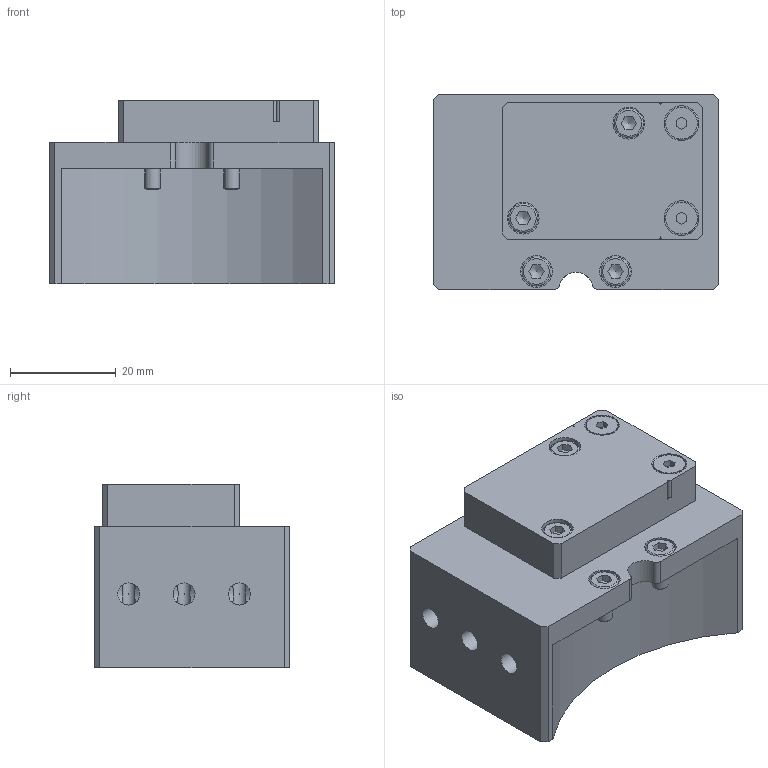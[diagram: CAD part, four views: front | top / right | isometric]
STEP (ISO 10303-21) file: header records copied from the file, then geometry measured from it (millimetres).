
FILE_DESCRIPTION(/* description */ (''),/* implementation_level */ '2;1');
FILE_NAME(/* name */ '\\dc01\daten\CAD\Standard\Daten\3D-Datenbank\Webseite 2020\MGW\MGW080\G-MEK080-O-6PM5-1E12.stp',/* time_stamp */ '2020-05-11T11:44:37+02:00',/* author */ ('ysplieth'),/* organization */ (''),/* preprocessor_version */ 'ST-DEVELOPER v17',/* originating_system */ 'Autodesk Inventor 2018',/* authorisation */ '');
FILE_SCHEMA (('AUTOMOTIVE_DESIGN { 1 0 10303 214 3 1 1 }'));
Length unit declared in the file: millimetre
Products named in the file (1): Bauteil2
Bounding box: 54 x 37 x 34.8 mm (x, y, z)
Volume: 45964 mm3; surface area: 18047.8 mm2
Topology: 1 solids, 5 shells, 401 faces, 1168 edges, 780 vertices
Faces by surface type: plane 165, cylinder 134, cone 66, torus 24, sphere 12
Full cylindrical faces by diameter (mm): 1 x12, 1.6 x12, 2 x26, 2.5 x8, 3 x6, 3.3 x2, 3.4 x4, 4.2 x6, 5.5 x4, 6 x7, 6.3 x6, 14 x1, 15.9 x1, 17 x1, 17.1 x1, 18.2 x1, 19 x1, 23 x2, 25.5 x1
Entity records: 15728 total; most frequent: CARTESIAN_POINT 4486, ORIENTED_EDGE 2276, DIRECTION 2262, EDGE_CURVE 1138, AXIS2_PLACEMENT_3D 877, VERTEX_POINT 780, LINE 508, VECTOR 508
